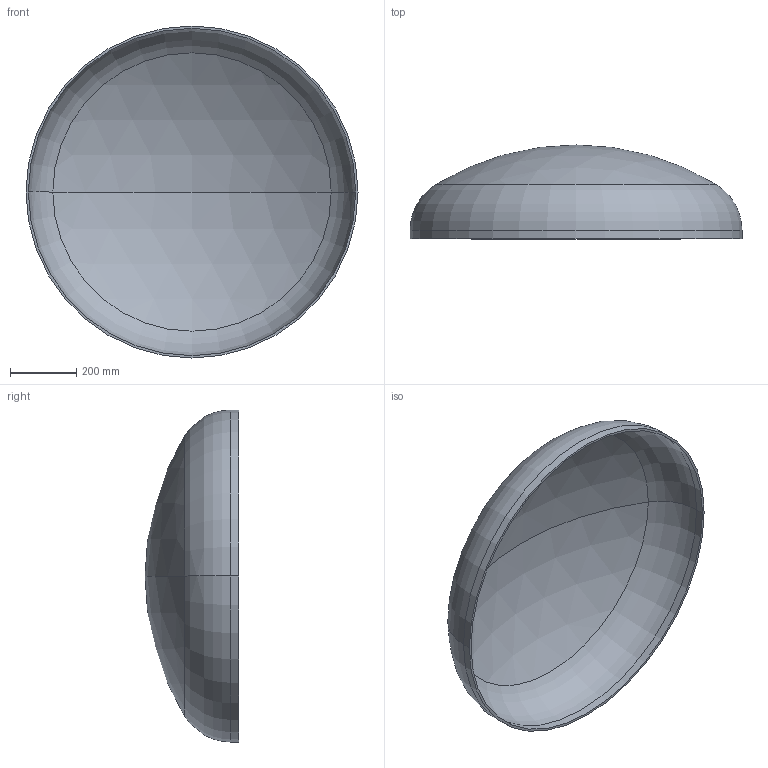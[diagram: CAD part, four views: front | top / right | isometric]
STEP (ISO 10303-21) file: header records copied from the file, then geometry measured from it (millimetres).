
FILE_DESCRIPTION (( 'STEP AP203' ), '1' );
FILE_NAME ('DIN 28013 Korbbogenform_-_Boden DIN 28013 - 1000 x 25 - I - s=7.step', '2016-07-01T08:41:22', ( '' ), ( '' ), 'SwSTEP 2.0', 'SolidWorks 2013', '' );
FILE_SCHEMA (( 'CONFIG_CONTROL_DESIGN' ));
Length unit declared in the file: millimetre
Products named in the file (1): DIN 28013 Korbbogenform_-_Boden DIN 28013 - 1000 x 25 - I - s=7
Bounding box: 1000 x 282.65 x 1000 mm (x, y, z)
Volume: 8099804.1 mm3; surface area: 2336168.7 mm2
Topology: 1 solids, 1 shells, 13 faces, 24 edges, 14 vertices
Faces by surface type: torus 4, cylinder 4, sphere 4, plane 1
Entity records: 407 total; most frequent: DIRECTION 72, CARTESIAN_POINT 52, ORIENTED_EDGE 48, AXIS2_PLACEMENT_3D 34, EDGE_CURVE 24, CIRCLE 20, EDGE_LOOP 14, VERTEX_POINT 14
